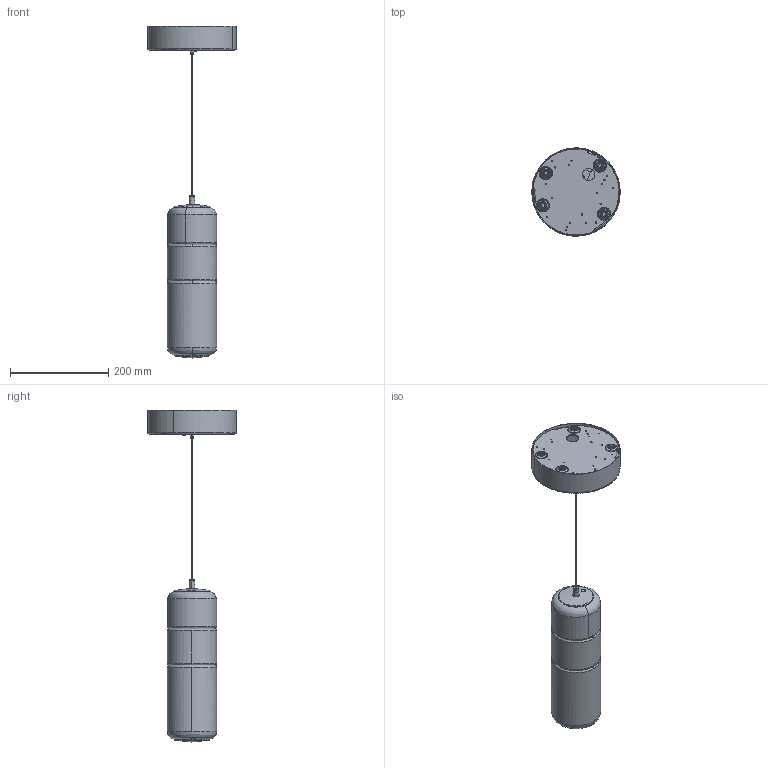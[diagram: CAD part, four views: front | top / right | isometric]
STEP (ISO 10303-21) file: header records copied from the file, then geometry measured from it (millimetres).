
FILE_DESCRIPTION(/* description */ (''),/* implementation_level */ '2;1');
FILE_NAME(/* name */ '00343MP3LD00ULPB - STACKING S 30 V GLASS USA',/* time_stamp */ '2023-09-27T17:23:31+02:00',/* author */ (''),/* organization */ (''),/* preprocessor_version */ 'ST-DEVELOPER v16.5',/* originating_system */ 'Rhino 7.27',/* authorisation */ '');
FILE_SCHEMA (('CONFIG_CONTROL_DESIGN'));
Length unit declared in the file: millimetre
Products named in the file (1): Document
Bounding box: 179.42 x 179.42 x 675.06 mm (x, y, z)
Volume: 662303.9 mm3; surface area: 603064.8 mm2
Topology: 20 solids, 54 shells, 763 faces, 1987 edges, 1349 vertices
Faces by surface type: plane 288, cylinder 287, bspline 188
Entity records: 26843 total; most frequent: CARTESIAN_POINT 14141, ORIENTED_EDGE 3762, EDGE_CURVE 1977, VERTEX_POINT 1349, EDGE_LOOP 958, B_SPLINE_CURVE_WITH_KNOTS 844, ADVANCED_FACE 763, FACE_OUTER_BOUND 763
